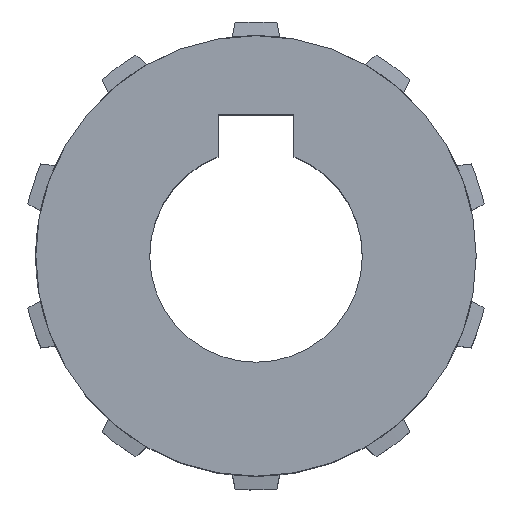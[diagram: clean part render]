
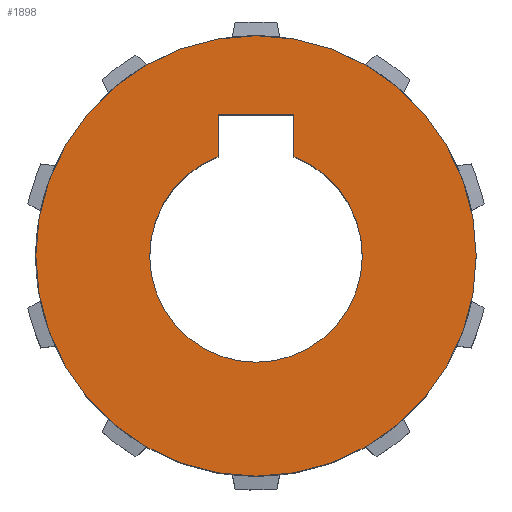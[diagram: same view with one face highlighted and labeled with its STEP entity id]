
A CAD part, top view. The second image highlights one B-rep face of the part: STEP entity #1898.
In plain terms, the highlighted planar face has unit normal (0, 0, 1).
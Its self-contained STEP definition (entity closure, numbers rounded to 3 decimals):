
#33=CARTESIAN_POINT('',(0.,0.,2.65));
#34=DIRECTION('',(0.,0.,1.));
#35=DIRECTION('',(1.,0.,0.));
#36=AXIS2_PLACEMENT_3D('',#33,#34,#35);
#42=CARTESIAN_POINT('',(0.,0.,2.65));
#43=DIRECTION('',(0.,0.,1.));
#44=DIRECTION('',(-1.,0.,0.));
#45=AXIS2_PLACEMENT_3D('',#42,#43,#44);
#50=DIRECTION('',(0.,1.,0.));
#51=VECTOR('',#50,2.762);
#52=CARTESIAN_POINT('',(2.5,6.538,2.65));
#53=LINE('',#52,#51);
#57=DIRECTION('',(-1.,0.,0.));
#58=VECTOR('',#57,5.);
#59=CARTESIAN_POINT('',(2.5,9.3,2.65));
#60=LINE('',#59,#58);
#64=DIRECTION('',(0.,-1.,0.));
#65=VECTOR('',#64,2.762);
#66=CARTESIAN_POINT('',(-2.5,9.3,2.65));
#67=LINE('',#66,#65);
#1109=CARTESIAN_POINT('',(0.,0.,2.65));
#1110=DIRECTION('',(0.,0.,-1.));
#1111=DIRECTION('',(0.357,0.934,0.));
#1112=AXIS2_PLACEMENT_3D('',#1109,#1110,#1111);
#1643=CARTESIAN_POINT('',(14.5,0.,2.65));
#1644=CARTESIAN_POINT('',(-14.5,0.,2.65));
#1645=VERTEX_POINT('',#1643);
#1646=VERTEX_POINT('',#1644);
#1739=CARTESIAN_POINT('',(2.5,6.538,2.65));
#1740=VERTEX_POINT('',#1739);
#1741=CARTESIAN_POINT('',(-2.5,6.538,2.65));
#1742=VERTEX_POINT('',#1741);
#1743=CARTESIAN_POINT('',(2.5,9.3,2.65));
#1744=VERTEX_POINT('',#1743);
#1745=CARTESIAN_POINT('',(-2.5,9.3,2.65));
#1746=VERTEX_POINT('',#1745);
#1877=CARTESIAN_POINT('',(0.,0.,2.65));
#1878=DIRECTION('',(0.,0.,1.));
#1879=DIRECTION('',(1.,0.,0.));
#1880=AXIS2_PLACEMENT_3D('',#1877,#1878,#1879);
#1881=PLANE('',#1880);
#1883=ORIENTED_EDGE('',*,*,#1882,.F.);
#1885=ORIENTED_EDGE('',*,*,#1884,.F.);
#1886=EDGE_LOOP('',(#1883,#1885));
#1887=FACE_OUTER_BOUND('',#1886,.F.);
#1889=ORIENTED_EDGE('',*,*,#1888,.T.);
#1891=ORIENTED_EDGE('',*,*,#1890,.T.);
#1893=ORIENTED_EDGE('',*,*,#1892,.T.);
#1895=ORIENTED_EDGE('',*,*,#1894,.F.);
#1896=EDGE_LOOP('',(#1889,#1891,#1893,#1895));
#1897=FACE_BOUND('',#1896,.F.);
#1898=ADVANCED_FACE('',(#1887,#1897),#1881,.T.);
#37=CIRCLE('',#36,14.5);
#46=CIRCLE('',#45,14.5);
#1113=CIRCLE('',#1112,7.);
#1882=EDGE_CURVE('',#1645,#1646,#37,.T.);
#1884=EDGE_CURVE('',#1646,#1645,#46,.T.);
#1888=EDGE_CURVE('',#1740,#1744,#53,.T.);
#1890=EDGE_CURVE('',#1744,#1746,#60,.T.);
#1892=EDGE_CURVE('',#1746,#1742,#67,.T.);
#1894=EDGE_CURVE('',#1740,#1742,#1113,.T.);
